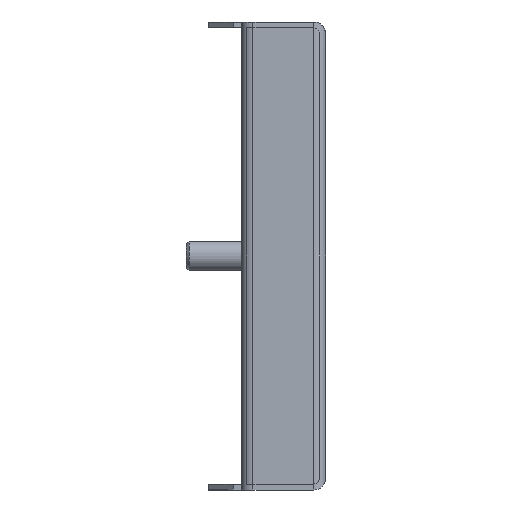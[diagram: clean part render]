
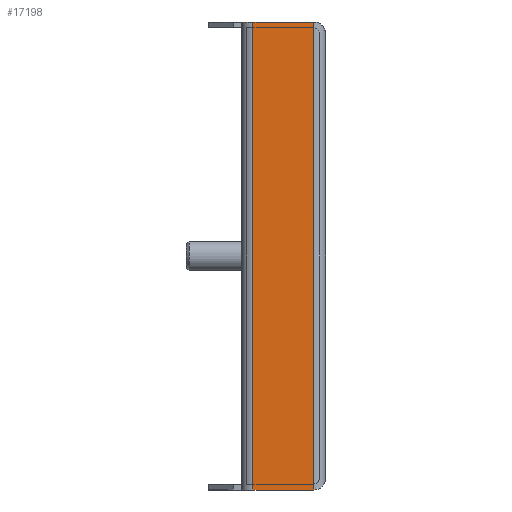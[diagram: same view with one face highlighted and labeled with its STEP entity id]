
A CAD part, left-side view. The second image highlights one B-rep face of the part: STEP entity #17198.
In plain terms, the highlighted planar face has unit normal (-1, 0, 0).
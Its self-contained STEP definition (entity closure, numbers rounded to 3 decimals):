
#13822 = EDGE_CURVE ( 'NONE', #24561, #24560, #30890, .T. ) ;
#13835 = EDGE_CURVE ( 'NONE', #24571, #24570, #30957, .T. ) ;
#13838 = EDGE_CURVE ( 'NONE', #24560, #24570, #30971, .T. ) ;
#13839 = EDGE_CURVE ( 'NONE', #24561, #24571, #30976, .T. ) ;
#17198 = ADVANCED_FACE ( 'NONE', ( #36342 ), #38086, .T. ) ;
#24560 = VERTEX_POINT ( 'NONE', #40087 ) ;
#24561 = VERTEX_POINT ( 'NONE', #40088 ) ;
#24570 = VERTEX_POINT ( 'NONE', #40097 ) ;
#24571 = VERTEX_POINT ( 'NONE', #40098 ) ;
#25170 = ORIENTED_EDGE ( 'NONE', *, *, #13839, .T. ) ;
#25172 = ORIENTED_EDGE ( 'NONE', *, *, #13838, .F. ) ;
#25174 = ORIENTED_EDGE ( 'NONE', *, *, #13822, .F. ) ;
#25176 = ORIENTED_EDGE ( 'NONE', *, *, #13835, .T. ) ;
#26655 = EDGE_LOOP ( 'NONE', ( #25172, #25174, #25170, #25176 ) ) ;
#29853 = VECTOR ( 'NONE', #30893, 1000. ) ;
#29893 = VECTOR ( 'NONE', #30960, 1000. ) ;
#29899 = VECTOR ( 'NONE', #30975, 1000. ) ;
#29902 = VECTOR ( 'NONE', #30979, 1000. ) ;
#30890 = LINE ( 'NONE', #30891, #29853 ) ;
#30891 = CARTESIAN_POINT ( 'NONE',  ( -329., 2.4, 47. ) ) ;
#30893 = DIRECTION ( 'NONE',  ( 0., 0., -1. ) ) ;
#30957 = LINE ( 'NONE', #30958, #29893 ) ;
#30958 = CARTESIAN_POINT ( 'NONE',  ( -329., 14.6, 47. ) ) ;
#30960 = DIRECTION ( 'NONE',  ( 0., 0., -1. ) ) ;
#30971 = LINE ( 'NONE', #30973, #29899 ) ;
#30973 = CARTESIAN_POINT ( 'NONE',  ( -329., 0., -47. ) ) ;
#30975 = DIRECTION ( 'NONE',  ( 0., 1., 0. ) ) ;
#30976 = LINE ( 'NONE', #30977, #29902 ) ;
#30977 = CARTESIAN_POINT ( 'NONE',  ( -329., 0., 47. ) ) ;
#30979 = DIRECTION ( 'NONE',  ( 0., 1., 0. ) ) ;
#36341 = AXIS2_PLACEMENT_3D ( 'NONE', #38087, #38088, #38089 ) ;
#36342 = FACE_OUTER_BOUND ( 'NONE', #26655, .T. ) ;
#38086 = PLANE ( 'NONE',  #36341 ) ;
#38087 = CARTESIAN_POINT ( 'NONE',  ( -329., 0., 47. ) ) ;
#38088 = DIRECTION ( 'NONE',  ( -1., 0., 0. ) ) ;
#38089 = DIRECTION ( 'NONE',  ( 0., 0., 1. ) ) ;
#40087 = CARTESIAN_POINT ( 'NONE',  ( -329., 2.4, -47. ) ) ;
#40088 = CARTESIAN_POINT ( 'NONE',  ( -329., 2.4, 47. ) ) ;
#40097 = CARTESIAN_POINT ( 'NONE',  ( -329., 14.6, -47. ) ) ;
#40098 = CARTESIAN_POINT ( 'NONE',  ( -329., 14.6, 47. ) ) ;
